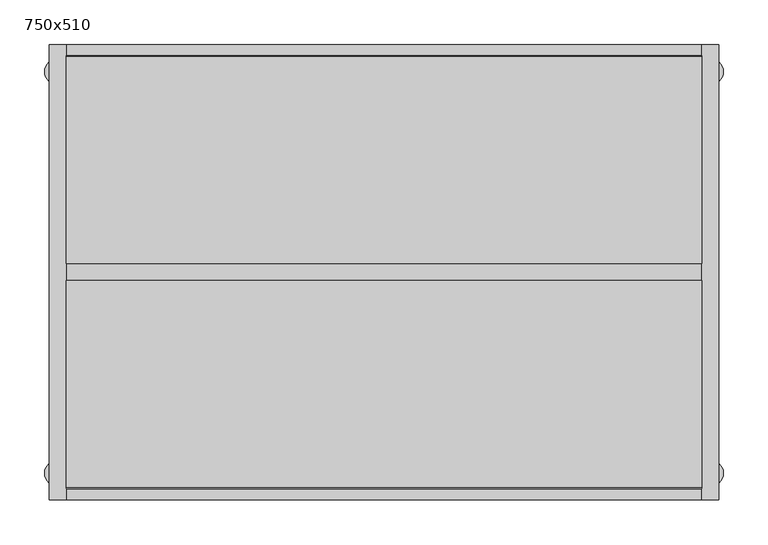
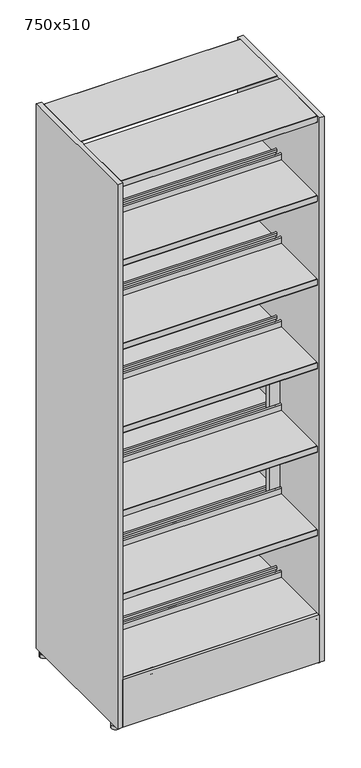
"""IFC4 building model written with IfcOpenShell, lengths in millimetres: furniture geometry, BK Library - Rondus DS - 2100 : 750x510."""

from ifc_helpers import new_model, si_unit, point, frame, frame_2d, origin, origin_with_axes, place, context, project, spatial, polyline, circle_curve, trimmed, segment, composite_curve, outline, extrude, source, transform, mapped, element, save


def furniture_750x510_03b311b1(model_context):
    return source(origin(), model_context, "Body", "SweptSolid", [
        extrude(outline(polyline([(356.0, 255.0), (356.0, 242.7476624), (-356.0, 242.7476624), (-356.0, 255.0), (356.0, 255.0)])), frame((0.0, 0.0, 13.6999998), z_axis=(0.0, 0.0, 1.0), x_axis=(1.0, 0.0, 0.0)), (0.0, 0.0, 1.0), 181.4999514),
        extrude(outline(polyline([(356.0, -242.7476624), (356.0, -255.0), (-356.0, -255.0), (-356.0, -242.7476624), (356.0, -242.7476624)])), frame((0.0, 0.0, 13.6999998), z_axis=(0.0, 0.0, 1.0), x_axis=(1.0, 0.0, 0.0)), (0.0, 0.0, 1.0), 181.4999514),
        extrude(outline(polyline([(1106.1999512, -356.0), (391.1999512, -356.0), (391.1999512, 356.0), (1106.1999512, 356.0), (1106.1999512, -356.0)]), holes=[polyline([(1066.1999514, -317.5), (1066.1999514, 317.5), (431.1999514, 317.5), (431.1999514, -317.5), (1066.1999514, -317.5)])]), frame((0.0, -9.5, 0.0), z_axis=(0.0, 1.0, 0.0), x_axis=(0.0, 0.0, 1.0)), (0.0, 0.0, 1.0), 19.0),
        extrude(outline(composite_curve([segment(polyline([(9.5, 2100.0), (241.25, 2100.0)]), True, "CONTINUOUS"), segment(trimmed(circle_curve(frame_2d((241.25, 2098.5)), 1.5), [point((241.25, 2100.0))], [point((242.75, 2098.5))], False, "CARTESIAN"), True, "CONTINUOUS"), segment(polyline([(242.75, 2098.5), (242.75, 2076.5)]), True, "CONTINUOUS"), segment(trimmed(circle_curve(frame_2d((241.25, 2076.5)), 1.5), [point((242.75, 2076.5))], [point((241.25, 2075.0))], False, "CARTESIAN"), True, "CONTINUOUS"), segment(polyline([(241.25, 2075.0), (229.25, 2075.0), (229.25, 2076.5), (241.25, 2076.5), (241.25, 2098.0), (9.5, 2098.0), (9.5, 2100.0)]), True, "CONTINUOUS")], self_intersect=False)), frame((-356.0, 0.0, 0.0), z_axis=(1.0, 0.0, 0.0), x_axis=(0.0, 1.0, 0.0)), (0.0, 0.0, 1.0), 712.0),
        extrude(outline(composite_curve([segment(polyline([(17.75, 1795.1999512), (241.25, 1795.1999512)]), True, "CONTINUOUS"), segment(trimmed(circle_curve(frame_2d((241.25, 1793.6999512)), 1.5), [point((241.25, 1795.1999512))], [point((242.75, 1793.6999512))], False, "CARTESIAN"), True, "CONTINUOUS"), segment(polyline([(242.75, 1793.6999512), (242.75, 1772.1999512)]), True, "CONTINUOUS"), segment(trimmed(circle_curve(frame_2d((241.25, 1772.1999512)), 1.5), [point((242.75, 1772.1999512))], [point((241.25, 1770.6999512))], False, "CARTESIAN"), True, "CONTINUOUS"), segment(polyline([(241.25, 1770.6999512), (229.25, 1770.6999512), (229.25, 1772.1999512), (241.25, 1772.1999512), (241.25, 1793.6999512), (17.7048221, 1793.6999512)]), True, "CONTINUOUS"), segment(trimmed(circle_curve(frame_2d((17.7048221, 1795.1547733)), 1.4548221), [point((17.7048221, 1793.6999512))], [point((16.25, 1795.1547733))], False, "CARTESIAN"), True, "CONTINUOUS"), segment(polyline([(16.25, 1795.1547733), (16.25, 1816.7020126)]), True, "CONTINUOUS"), segment(trimmed(circle_curve(frame_2d((14.25, 1816.7020126)), 2.0), [point((16.25, 1816.7020126))], [point((12.25, 1816.7020126))], True, "CARTESIAN"), True, "CONTINUOUS"), segment(polyline([(12.25, 1816.7020126), (12.25, 1808.1999512), (10.75, 1808.1999512), (10.75, 1816.7196336)]), True, "CONTINUOUS"), segment(trimmed(circle_curve(frame_2d((14.25, 1816.7196336)), 3.5), [point((10.75, 1816.7196336))], [point((17.75, 1816.7196336))], False, "CARTESIAN"), True, "CONTINUOUS"), segment(polyline([(17.75, 1816.7196336), (17.75, 1795.1999512)]), True, "CONTINUOUS")], self_intersect=False)), frame((-356.0, 0.0, 0.0), z_axis=(1.0, 0.0, 0.0), x_axis=(0.0, 1.0, 0.0)), (0.0, 0.0, 1.0), 712.0),
        extrude(outline(composite_curve([segment(polyline([(17.75, 1475.1999512), (241.25, 1475.1999512)]), True, "CONTINUOUS"), segment(trimmed(circle_curve(frame_2d((241.25, 1473.6999512)), 1.5), [point((241.25, 1475.1999512))], [point((242.75, 1473.6999512))], False, "CARTESIAN"), True, "CONTINUOUS"), segment(polyline([(242.75, 1473.6999512), (242.75, 1452.1999512)]), True, "CONTINUOUS"), segment(trimmed(circle_curve(frame_2d((241.25, 1452.1999512)), 1.5), [point((242.75, 1452.1999512))], [point((241.25, 1450.6999512))], False, "CARTESIAN"), True, "CONTINUOUS"), segment(polyline([(241.25, 1450.6999512), (229.25, 1450.6999512), (229.25, 1452.1999512), (241.25, 1452.1999512), (241.25, 1473.6999512), (17.7048221, 1473.6999512)]), True, "CONTINUOUS"), segment(trimmed(circle_curve(frame_2d((17.7048221, 1475.1547733)), 1.4548221), [point((17.7048221, 1473.6999512))], [point((16.25, 1475.1547733))], False, "CARTESIAN"), True, "CONTINUOUS"), segment(polyline([(16.25, 1475.1547733), (16.25, 1496.7020126)]), True, "CONTINUOUS"), segment(trimmed(circle_curve(frame_2d((14.25, 1496.7020126)), 2.0), [point((16.25, 1496.7020126))], [point((12.25, 1496.7020126))], True, "CARTESIAN"), True, "CONTINUOUS"), segment(polyline([(12.25, 1496.7020126), (12.25, 1488.1999512), (10.75, 1488.1999512), (10.75, 1496.7196336)]), True, "CONTINUOUS"), segment(trimmed(circle_curve(frame_2d((14.25, 1496.7196336)), 3.5), [point((10.75, 1496.7196336))], [point((17.75, 1496.7196336))], False, "CARTESIAN"), True, "CONTINUOUS"), segment(polyline([(17.75, 1496.7196336), (17.75, 1475.1999512)]), True, "CONTINUOUS")], self_intersect=False)), frame((-356.0, 0.0, 0.0), z_axis=(1.0, 0.0, 0.0), x_axis=(0.0, 1.0, 0.0)), (0.0, 0.0, 1.0), 712.0),
        extrude(outline(composite_curve([segment(polyline([(17.75, 1155.1999512), (241.25, 1155.1999512)]), True, "CONTINUOUS"), segment(trimmed(circle_curve(frame_2d((241.25, 1153.6999512)), 1.5), [point((241.25, 1155.1999512))], [point((242.75, 1153.6999512))], False, "CARTESIAN"), True, "CONTINUOUS"), segment(polyline([(242.75, 1153.6999512), (242.75, 1132.1999512)]), True, "CONTINUOUS"), segment(trimmed(circle_curve(frame_2d((241.25, 1132.1999512)), 1.5), [point((242.75, 1132.1999512))], [point((241.25, 1130.6999512))], False, "CARTESIAN"), True, "CONTINUOUS"), segment(polyline([(241.25, 1130.6999512), (229.25, 1130.6999512), (229.25, 1132.1999512), (241.25, 1132.1999512), (241.25, 1153.6999512), (17.7048221, 1153.6999512)]), True, "CONTINUOUS"), segment(trimmed(circle_curve(frame_2d((17.7048221, 1155.1547733)), 1.4548221), [point((17.7048221, 1153.6999512))], [point((16.25, 1155.1547733))], False, "CARTESIAN"), True, "CONTINUOUS"), segment(polyline([(16.25, 1155.1547733), (16.25, 1176.7020126)]), True, "CONTINUOUS"), segment(trimmed(circle_curve(frame_2d((14.25, 1176.7020126)), 2.0), [point((16.25, 1176.7020126))], [point((12.25, 1176.7020126))], True, "CARTESIAN"), True, "CONTINUOUS"), segment(polyline([(12.25, 1176.7020126), (12.25, 1168.1999512), (10.75, 1168.1999512), (10.75, 1176.7196336)]), True, "CONTINUOUS"), segment(trimmed(circle_curve(frame_2d((14.25, 1176.7196336)), 3.5), [point((10.75, 1176.7196336))], [point((17.75, 1176.7196336))], False, "CARTESIAN"), True, "CONTINUOUS"), segment(polyline([(17.75, 1176.7196336), (17.75, 1155.1999512)]), True, "CONTINUOUS")], self_intersect=False)), frame((-356.0, 0.0, 0.0), z_axis=(1.0, 0.0, 0.0), x_axis=(0.0, 1.0, 0.0)), (0.0, 0.0, 1.0), 712.0),
        extrude(outline(composite_curve([segment(polyline([(17.75, 835.1999512), (241.25, 835.1999512)]), True, "CONTINUOUS"), segment(trimmed(circle_curve(frame_2d((241.25, 833.6999512)), 1.5), [point((241.25, 835.1999512))], [point((242.75, 833.6999512))], False, "CARTESIAN"), True, "CONTINUOUS"), segment(polyline([(242.75, 833.6999512), (242.75, 812.1999512)]), True, "CONTINUOUS"), segment(trimmed(circle_curve(frame_2d((241.25, 812.1999512)), 1.5), [point((242.75, 812.1999512))], [point((241.25, 810.6999512))], False, "CARTESIAN"), True, "CONTINUOUS"), segment(polyline([(241.25, 810.6999512), (229.25, 810.6999512), (229.25, 812.1999512), (241.25, 812.1999512), (241.25, 833.6999512), (17.7048221, 833.6999512)]), True, "CONTINUOUS"), segment(trimmed(circle_curve(frame_2d((17.7048221, 835.1547733)), 1.4548221), [point((17.7048221, 833.6999512))], [point((16.25, 835.1547733))], False, "CARTESIAN"), True, "CONTINUOUS"), segment(polyline([(16.25, 835.1547733), (16.25, 856.7020126)]), True, "CONTINUOUS"), segment(trimmed(circle_curve(frame_2d((14.25, 856.7020126)), 2.0), [point((16.25, 856.7020126))], [point((12.25, 856.7020126))], True, "CARTESIAN"), True, "CONTINUOUS"), segment(polyline([(12.25, 856.7020126), (12.25, 848.1999512), (10.75, 848.1999512), (10.75, 856.7196336)]), True, "CONTINUOUS"), segment(trimmed(circle_curve(frame_2d((14.25, 856.7196336)), 3.5), [point((10.75, 856.7196336))], [point((17.75, 856.7196336))], False, "CARTESIAN"), True, "CONTINUOUS"), segment(polyline([(17.75, 856.7196336), (17.75, 835.1999512)]), True, "CONTINUOUS")], self_intersect=False)), frame((-356.0, 0.0, 0.0), z_axis=(1.0, 0.0, 0.0), x_axis=(0.0, 1.0, 0.0)), (0.0, 0.0, 1.0), 712.0),
        extrude(outline(composite_curve([segment(polyline([(17.75, 515.1999512), (241.25, 515.1999512)]), True, "CONTINUOUS"), segment(trimmed(circle_curve(frame_2d((241.25, 513.6999512)), 1.5), [point((241.25, 515.1999512))], [point((242.75, 513.6999512))], False, "CARTESIAN"), True, "CONTINUOUS"), segment(polyline([(242.75, 513.6999512), (242.75, 492.1999512)]), True, "CONTINUOUS"), segment(trimmed(circle_curve(frame_2d((241.25, 492.1999512)), 1.5), [point((242.75, 492.1999512))], [point((241.25, 490.6999512))], False, "CARTESIAN"), True, "CONTINUOUS"), segment(polyline([(241.25, 490.6999512), (229.25, 490.6999512), (229.25, 492.1999512), (241.25, 492.1999512), (241.25, 513.6999512), (17.7048221, 513.6999512)]), True, "CONTINUOUS"), segment(trimmed(circle_curve(frame_2d((17.7048221, 515.1547733)), 1.4548221), [point((17.7048221, 513.6999512))], [point((16.25, 515.1547733))], False, "CARTESIAN"), True, "CONTINUOUS"), segment(polyline([(16.25, 515.1547733), (16.25, 536.7020126)]), True, "CONTINUOUS"), segment(trimmed(circle_curve(frame_2d((14.25, 536.7020126)), 2.0), [point((16.25, 536.7020126))], [point((12.25, 536.7020126))], True, "CARTESIAN"), True, "CONTINUOUS"), segment(polyline([(12.25, 536.7020126), (12.25, 528.1999512), (10.75, 528.1999512), (10.75, 536.7196336)]), True, "CONTINUOUS"), segment(trimmed(circle_curve(frame_2d((14.25, 536.7196336)), 3.5), [point((10.75, 536.7196336))], [point((17.75, 536.7196336))], False, "CARTESIAN"), True, "CONTINUOUS"), segment(polyline([(17.75, 536.7196336), (17.75, 515.1999512)]), True, "CONTINUOUS")], self_intersect=False)), frame((-356.0, 0.0, 0.0), z_axis=(1.0, 0.0, 0.0), x_axis=(0.0, 1.0, 0.0)), (0.0, 0.0, 1.0), 712.0),
        extrude(outline(composite_curve([segment(polyline([(17.75, 195.1999512), (241.25, 195.1999512)]), True, "CONTINUOUS"), segment(trimmed(circle_curve(frame_2d((241.25, 193.6999512)), 1.5), [point((241.25, 195.1999512))], [point((242.75, 193.6999512))], False, "CARTESIAN"), True, "CONTINUOUS"), segment(polyline([(242.75, 193.6999512), (242.75, 172.1999512)]), True, "CONTINUOUS"), segment(trimmed(circle_curve(frame_2d((241.25, 172.1999512)), 1.5), [point((242.75, 172.1999512))], [point((241.25, 170.6999512))], False, "CARTESIAN"), True, "CONTINUOUS"), segment(polyline([(241.25, 170.6999512), (229.25, 170.6999512), (229.25, 172.1999512), (241.25, 172.1999512), (241.25, 193.6999512), (17.7048221, 193.6999512)]), True, "CONTINUOUS"), segment(trimmed(circle_curve(frame_2d((17.7048221, 195.1547733)), 1.4548221), [point((17.7048221, 193.6999512))], [point((16.25, 195.1547733))], False, "CARTESIAN"), True, "CONTINUOUS"), segment(polyline([(16.25, 195.1547733), (16.25, 216.7020126)]), True, "CONTINUOUS"), segment(trimmed(circle_curve(frame_2d((14.25, 216.7020126)), 2.0), [point((16.25, 216.7020126))], [point((12.25, 216.7020126))], True, "CARTESIAN"), True, "CONTINUOUS"), segment(polyline([(12.25, 216.7020126), (12.25, 208.1999512), (10.75, 208.1999512), (10.75, 216.7196336)]), True, "CONTINUOUS"), segment(trimmed(circle_curve(frame_2d((14.25, 216.7196336)), 3.5), [point((10.75, 216.7196336))], [point((17.75, 216.7196336))], False, "CARTESIAN"), True, "CONTINUOUS"), segment(polyline([(17.75, 216.7196336), (17.75, 195.1999512)]), True, "CONTINUOUS")], self_intersect=False)), frame((-356.0, 0.0, 0.0), z_axis=(1.0, 0.0, 0.0), x_axis=(0.0, 1.0, 0.0)), (0.0, 0.0, 1.0), 712.0),
        extrude(outline(composite_curve([segment(polyline([(-9.5, 2100.0), (-9.5, 2098.0), (-241.25, 2098.0), (-241.25, 2076.5), (-229.25, 2076.5), (-229.25, 2075.0), (-241.25, 2075.0)]), True, "CONTINUOUS"), segment(trimmed(circle_curve(frame_2d((-241.25, 2076.5)), 1.5), [point((-241.25, 2075.0))], [point((-242.75, 2076.5))], False, "CARTESIAN"), True, "CONTINUOUS"), segment(polyline([(-242.75, 2076.5), (-242.75, 2098.5)]), True, "CONTINUOUS"), segment(trimmed(circle_curve(frame_2d((-241.25, 2098.5)), 1.5), [point((-242.75, 2098.5))], [point((-241.25, 2100.0))], False, "CARTESIAN"), True, "CONTINUOUS"), segment(polyline([(-241.25, 2100.0), (-9.5, 2100.0)]), True, "CONTINUOUS")], self_intersect=False)), frame((-356.0, 0.0, 0.0), z_axis=(1.0, 0.0, 0.0), x_axis=(0.0, 1.0, 0.0)), (0.0, 0.0, 1.0), 712.0),
        extrude(outline(composite_curve([segment(polyline([(-17.75, 1795.1999512), (-17.75, 1816.7196336)]), True, "CONTINUOUS"), segment(trimmed(circle_curve(frame_2d((-14.25, 1816.7196336)), 3.5), [point((-17.75, 1816.7196336))], [point((-10.75, 1816.7196336))], False, "CARTESIAN"), True, "CONTINUOUS"), segment(polyline([(-10.75, 1816.7196336), (-10.75, 1808.1999512), (-12.25, 1808.1999512), (-12.25, 1816.7020126)]), True, "CONTINUOUS"), segment(trimmed(circle_curve(frame_2d((-14.25, 1816.7020126)), 2.0), [point((-12.25, 1816.7020126))], [point((-16.25, 1816.7020126))], True, "CARTESIAN"), True, "CONTINUOUS"), segment(polyline([(-16.25, 1816.7020126), (-16.25, 1795.1547733)]), True, "CONTINUOUS"), segment(trimmed(circle_curve(frame_2d((-17.7048221, 1795.1547733)), 1.4548221), [point((-16.25, 1795.1547733))], [point((-17.7048221, 1793.6999512))], False, "CARTESIAN"), True, "CONTINUOUS"), segment(polyline([(-17.7048221, 1793.6999512), (-241.25, 1793.6999512), (-241.25, 1772.1999512), (-229.25, 1772.1999512), (-229.25, 1770.6999512), (-241.25, 1770.6999512)]), True, "CONTINUOUS"), segment(trimmed(circle_curve(frame_2d((-241.25, 1772.1999512)), 1.5), [point((-241.25, 1770.6999512))], [point((-242.75, 1772.1999512))], False, "CARTESIAN"), True, "CONTINUOUS"), segment(polyline([(-242.75, 1772.1999512), (-242.75, 1793.6999512)]), True, "CONTINUOUS"), segment(trimmed(circle_curve(frame_2d((-241.25, 1793.6999512)), 1.5), [point((-242.75, 1793.6999512))], [point((-241.25, 1795.1999512))], False, "CARTESIAN"), True, "CONTINUOUS"), segment(polyline([(-241.25, 1795.1999512), (-17.75, 1795.1999512)]), True, "CONTINUOUS")], self_intersect=False)), frame((-356.0, 0.0, 0.0), z_axis=(1.0, 0.0, 0.0), x_axis=(0.0, 1.0, 0.0)), (0.0, 0.0, 1.0), 712.0),
        extrude(outline(composite_curve([segment(polyline([(-17.75, 1475.1999512), (-17.75, 1496.7196336)]), True, "CONTINUOUS"), segment(trimmed(circle_curve(frame_2d((-14.25, 1496.7196336)), 3.5), [point((-17.75, 1496.7196336))], [point((-10.75, 1496.7196336))], False, "CARTESIAN"), True, "CONTINUOUS"), segment(polyline([(-10.75, 1496.7196336), (-10.75, 1488.1999512), (-12.25, 1488.1999512), (-12.25, 1496.7020126)]), True, "CONTINUOUS"), segment(trimmed(circle_curve(frame_2d((-14.25, 1496.7020126)), 2.0), [point((-12.25, 1496.7020126))], [point((-16.25, 1496.7020126))], True, "CARTESIAN"), True, "CONTINUOUS"), segment(polyline([(-16.25, 1496.7020126), (-16.25, 1475.1547733)]), True, "CONTINUOUS"), segment(trimmed(circle_curve(frame_2d((-17.7048221, 1475.1547733)), 1.4548221), [point((-16.25, 1475.1547733))], [point((-17.7048221, 1473.6999512))], False, "CARTESIAN"), True, "CONTINUOUS"), segment(polyline([(-17.7048221, 1473.6999512), (-241.25, 1473.6999512), (-241.25, 1452.1999512), (-229.25, 1452.1999512), (-229.25, 1450.6999512), (-241.25, 1450.6999512)]), True, "CONTINUOUS"), segment(trimmed(circle_curve(frame_2d((-241.25, 1452.1999512)), 1.5), [point((-241.25, 1450.6999512))], [point((-242.75, 1452.1999512))], False, "CARTESIAN"), True, "CONTINUOUS"), segment(polyline([(-242.75, 1452.1999512), (-242.75, 1473.6999512)]), True, "CONTINUOUS"), segment(trimmed(circle_curve(frame_2d((-241.25, 1473.6999512)), 1.5), [point((-242.75, 1473.6999512))], [point((-241.25, 1475.1999512))], False, "CARTESIAN"), True, "CONTINUOUS"), segment(polyline([(-241.25, 1475.1999512), (-17.75, 1475.1999512)]), True, "CONTINUOUS")], self_intersect=False)), frame((-356.0, 0.0, 0.0), z_axis=(1.0, 0.0, 0.0), x_axis=(0.0, 1.0, 0.0)), (0.0, 0.0, 1.0), 712.0),
        extrude(outline(composite_curve([segment(polyline([(-17.75, 1155.1999512), (-17.75, 1176.7196336)]), True, "CONTINUOUS"), segment(trimmed(circle_curve(frame_2d((-14.25, 1176.7196336)), 3.5), [point((-17.75, 1176.7196336))], [point((-10.75, 1176.7196336))], False, "CARTESIAN"), True, "CONTINUOUS"), segment(polyline([(-10.75, 1176.7196336), (-10.75, 1168.1999512), (-12.25, 1168.1999512), (-12.25, 1176.7020126)]), True, "CONTINUOUS"), segment(trimmed(circle_curve(frame_2d((-14.25, 1176.7020126)), 2.0), [point((-12.25, 1176.7020126))], [point((-16.25, 1176.7020126))], True, "CARTESIAN"), True, "CONTINUOUS"), segment(polyline([(-16.25, 1176.7020126), (-16.25, 1155.1547733)]), True, "CONTINUOUS"), segment(trimmed(circle_curve(frame_2d((-17.7048221, 1155.1547733)), 1.4548221), [point((-16.25, 1155.1547733))], [point((-17.7048221, 1153.6999512))], False, "CARTESIAN"), True, "CONTINUOUS"), segment(polyline([(-17.7048221, 1153.6999512), (-241.25, 1153.6999512), (-241.25, 1132.1999512), (-229.25, 1132.1999512), (-229.25, 1130.6999512), (-241.25, 1130.6999512)]), True, "CONTINUOUS"), segment(trimmed(circle_curve(frame_2d((-241.25, 1132.1999512)), 1.5), [point((-241.25, 1130.6999512))], [point((-242.75, 1132.1999512))], False, "CARTESIAN"), True, "CONTINUOUS"), segment(polyline([(-242.75, 1132.1999512), (-242.75, 1153.6999512)]), True, "CONTINUOUS"), segment(trimmed(circle_curve(frame_2d((-241.25, 1153.6999512)), 1.5), [point((-242.75, 1153.6999512))], [point((-241.25, 1155.1999512))], False, "CARTESIAN"), True, "CONTINUOUS"), segment(polyline([(-241.25, 1155.1999512), (-17.75, 1155.1999512)]), True, "CONTINUOUS")], self_intersect=False)), frame((-356.0, 0.0, 0.0), z_axis=(1.0, 0.0, 0.0), x_axis=(0.0, 1.0, 0.0)), (0.0, 0.0, 1.0), 712.0),
        extrude(outline(composite_curve([segment(polyline([(-17.75, 835.1999512), (-17.75, 856.7196336)]), True, "CONTINUOUS"), segment(trimmed(circle_curve(frame_2d((-14.25, 856.7196336)), 3.5), [point((-17.75, 856.7196336))], [point((-10.75, 856.7196336))], False, "CARTESIAN"), True, "CONTINUOUS"), segment(polyline([(-10.75, 856.7196336), (-10.75, 848.1999512), (-12.25, 848.1999512), (-12.25, 856.7020126)]), True, "CONTINUOUS"), segment(trimmed(circle_curve(frame_2d((-14.25, 856.7020126)), 2.0), [point((-12.25, 856.7020126))], [point((-16.25, 856.7020126))], True, "CARTESIAN"), True, "CONTINUOUS"), segment(polyline([(-16.25, 856.7020126), (-16.25, 835.1547733)]), True, "CONTINUOUS"), segment(trimmed(circle_curve(frame_2d((-17.7048221, 835.1547733)), 1.4548221), [point((-16.25, 835.1547733))], [point((-17.7048221, 833.6999512))], False, "CARTESIAN"), True, "CONTINUOUS"), segment(polyline([(-17.7048221, 833.6999512), (-241.25, 833.6999512), (-241.25, 812.1999512), (-229.25, 812.1999512), (-229.25, 810.6999512), (-241.25, 810.6999512)]), True, "CONTINUOUS"), segment(trimmed(circle_curve(frame_2d((-241.25, 812.1999512)), 1.5), [point((-241.25, 810.6999512))], [point((-242.75, 812.1999512))], False, "CARTESIAN"), True, "CONTINUOUS"), segment(polyline([(-242.75, 812.1999512), (-242.75, 833.6999512)]), True, "CONTINUOUS"), segment(trimmed(circle_curve(frame_2d((-241.25, 833.6999512)), 1.5), [point((-242.75, 833.6999512))], [point((-241.25, 835.1999512))], False, "CARTESIAN"), True, "CONTINUOUS"), segment(polyline([(-241.25, 835.1999512), (-17.75, 835.1999512)]), True, "CONTINUOUS")], self_intersect=False)), frame((-356.0, 0.0, 0.0), z_axis=(1.0, 0.0, 0.0), x_axis=(0.0, 1.0, 0.0)), (0.0, 0.0, 1.0), 712.0),
        extrude(outline(composite_curve([segment(polyline([(-17.75, 515.1999512), (-17.75, 536.7196336)]), True, "CONTINUOUS"), segment(trimmed(circle_curve(frame_2d((-14.25, 536.7196336)), 3.5), [point((-17.75, 536.7196336))], [point((-10.75, 536.7196336))], False, "CARTESIAN"), True, "CONTINUOUS"), segment(polyline([(-10.75, 536.7196336), (-10.75, 528.1999512), (-12.25, 528.1999512), (-12.25, 536.7020126)]), True, "CONTINUOUS"), segment(trimmed(circle_curve(frame_2d((-14.25, 536.7020126)), 2.0), [point((-12.25, 536.7020126))], [point((-16.25, 536.7020126))], True, "CARTESIAN"), True, "CONTINUOUS"), segment(polyline([(-16.25, 536.7020126), (-16.25, 515.1547733)]), True, "CONTINUOUS"), segment(trimmed(circle_curve(frame_2d((-17.7048221, 515.1547733)), 1.4548221), [point((-16.25, 515.1547733))], [point((-17.7048221, 513.6999512))], False, "CARTESIAN"), True, "CONTINUOUS"), segment(polyline([(-17.7048221, 513.6999512), (-241.25, 513.6999512), (-241.25, 492.1999512), (-229.25, 492.1999512), (-229.25, 490.6999512), (-241.25, 490.6999512)]), True, "CONTINUOUS"), segment(trimmed(circle_curve(frame_2d((-241.25, 492.1999512)), 1.5), [point((-241.25, 490.6999512))], [point((-242.75, 492.1999512))], False, "CARTESIAN"), True, "CONTINUOUS"), segment(polyline([(-242.75, 492.1999512), (-242.75, 513.6999512)]), True, "CONTINUOUS"), segment(trimmed(circle_curve(frame_2d((-241.25, 513.6999512)), 1.5), [point((-242.75, 513.6999512))], [point((-241.25, 515.1999512))], False, "CARTESIAN"), True, "CONTINUOUS"), segment(polyline([(-241.25, 515.1999512), (-17.75, 515.1999512)]), True, "CONTINUOUS")], self_intersect=False)), frame((-356.0, 0.0, 0.0), z_axis=(1.0, 0.0, 0.0), x_axis=(0.0, 1.0, 0.0)), (0.0, 0.0, 1.0), 712.0),
        extrude(outline(composite_curve([segment(polyline([(-17.75, 195.1999512), (-17.75, 216.7196336)]), True, "CONTINUOUS"), segment(trimmed(circle_curve(frame_2d((-14.25, 216.7196336)), 3.5), [point((-17.75, 216.7196336))], [point((-10.75, 216.7196336))], False, "CARTESIAN"), True, "CONTINUOUS"), segment(polyline([(-10.75, 216.7196336), (-10.75, 208.1999512), (-12.25, 208.1999512), (-12.25, 216.7020126)]), True, "CONTINUOUS"), segment(trimmed(circle_curve(frame_2d((-14.25, 216.7020126)), 2.0), [point((-12.25, 216.7020126))], [point((-16.25, 216.7020126))], True, "CARTESIAN"), True, "CONTINUOUS"), segment(polyline([(-16.25, 216.7020126), (-16.25, 195.1547733)]), True, "CONTINUOUS"), segment(trimmed(circle_curve(frame_2d((-17.7048221, 195.1547733)), 1.4548221), [point((-16.25, 195.1547733))], [point((-17.7048221, 193.6999512))], False, "CARTESIAN"), True, "CONTINUOUS"), segment(polyline([(-17.7048221, 193.6999512), (-241.25, 193.6999512), (-241.25, 172.1999512), (-229.25, 172.1999512), (-229.25, 170.6999512), (-241.25, 170.6999512)]), True, "CONTINUOUS"), segment(trimmed(circle_curve(frame_2d((-241.25, 172.1999512)), 1.5), [point((-241.25, 170.6999512))], [point((-242.75, 172.1999512))], False, "CARTESIAN"), True, "CONTINUOUS"), segment(polyline([(-242.75, 172.1999512), (-242.75, 193.6999512)]), True, "CONTINUOUS"), segment(trimmed(circle_curve(frame_2d((-241.25, 193.6999512)), 1.5), [point((-242.75, 193.6999512))], [point((-241.25, 195.1999512))], False, "CARTESIAN"), True, "CONTINUOUS"), segment(polyline([(-241.25, 195.1999512), (-17.75, 195.1999512)]), True, "CONTINUOUS")], self_intersect=False)), frame((-356.0, 0.0, 0.0), z_axis=(1.0, 0.0, 0.0), x_axis=(0.0, 1.0, 0.0)), (0.0, 0.0, 1.0), 712.0),
        extrude(outline(polyline([(356.0, 255.0), (375.0, 255.0), (375.0, -255.0), (356.0, -255.0), (356.0, 255.0)])), frame((0.0, 0.0, 13.6999998), z_axis=(0.0, 0.0, 1.0), x_axis=(1.0, 0.0, 0.0)), (0.0, 0.0, 1.0), 2086.3000002),
        extrude(outline(polyline([(-356.0, 255.0), (-356.0, -255.0), (-375.0, -255.0), (-375.0, 255.0), (-356.0, 255.0)])), frame((0.0, 0.0, 13.6999998), z_axis=(0.0, 0.0, 1.0), x_axis=(1.0, 0.0, 0.0)), (0.0, 0.0, 1.0), 2086.3000002),
        extrude(outline(composite_curve([segment(trimmed(circle_curve(frame_2d((365.5005427, 224.9952633)), 14.4994573), [point((380.0, 224.9952633))], [point((351.0010853, 224.9952633))], False, "CARTESIAN"), True, "CONTINUOUS"), segment(trimmed(circle_curve(frame_2d((365.5005427, 224.9952633)), 14.4994573), [point((351.0010853, 224.9952633))], [point((380.0, 224.9952633))], False, "CARTESIAN"), True, "CONTINUOUS")], self_intersect=False)), origin_with_axes(), (0.0, 0.0, 1.0), 13.6999998),
        extrude(outline(composite_curve([segment(trimmed(circle_curve(frame_2d((-365.5005427, 224.9952633)), 14.4994573), [point((-380.0, 224.9952633))], [point((-351.0010853, 224.9952633))], False, "CARTESIAN"), True, "CONTINUOUS"), segment(trimmed(circle_curve(frame_2d((-365.5005427, 224.9952633)), 14.4994573), [point((-351.0010853, 224.9952633))], [point((-380.0, 224.9952633))], False, "CARTESIAN"), True, "CONTINUOUS")], self_intersect=False)), origin_with_axes(), (0.0, 0.0, 1.0), 13.6999998),
        extrude(outline(composite_curve([segment(trimmed(circle_curve(frame_2d((365.5005427, -224.9952633)), 14.4994573), [point((380.0, -224.9952633))], [point((351.0010853, -224.9952633))], False, "CARTESIAN"), True, "CONTINUOUS"), segment(trimmed(circle_curve(frame_2d((365.5005427, -224.9952633)), 14.4994573), [point((351.0010853, -224.9952633))], [point((380.0, -224.9952633))], False, "CARTESIAN"), True, "CONTINUOUS")], self_intersect=False)), origin_with_axes(), (0.0, 0.0, 1.0), 13.6999998),
        extrude(outline(composite_curve([segment(trimmed(circle_curve(frame_2d((-365.5005427, -224.9952633)), 14.4994573), [point((-380.0, -224.9952633))], [point((-351.0010853, -224.9952633))], False, "CARTESIAN"), True, "CONTINUOUS"), segment(trimmed(circle_curve(frame_2d((-365.5005427, -224.9952633)), 14.4994573), [point((-351.0010853, -224.9952633))], [point((-380.0, -224.9952633))], False, "CARTESIAN"), True, "CONTINUOUS")], self_intersect=False)), origin_with_axes(), (0.0, 0.0, 1.0), 13.6999998),
    ])


if __name__ == "__main__":
    model = new_model("IFC4")
    model_context = context("Model", 3, world=origin())
    ifc_project = project(units=[si_unit("LENGTHUNIT", "METRE", prefix="MILLI")], contexts=[model_context])
    site = spatial("IfcSite", under=ifc_project)
    building = spatial("IfcBuilding", under=site)
    placement = place(None, origin())
    furniture_750x510_shape = furniture_750x510_03b311b1(model_context)
    element("IfcFurniture", 1, ObjectType="BK Library - Rondus DS - 2100 : 750x510", at=placement, inside=building, context=model_context, shape_type="MappedRepresentation", body=[
        mapped(furniture_750x510_shape, transform((0.0, 0.0, 0.0), x_axis=(1.0, 0.0, 0.0), y_axis=(0.0, 1.0, 0.0), z_axis=(0.0, 0.0, 1.0))),
    ])
    save(model, "model.ifc")
